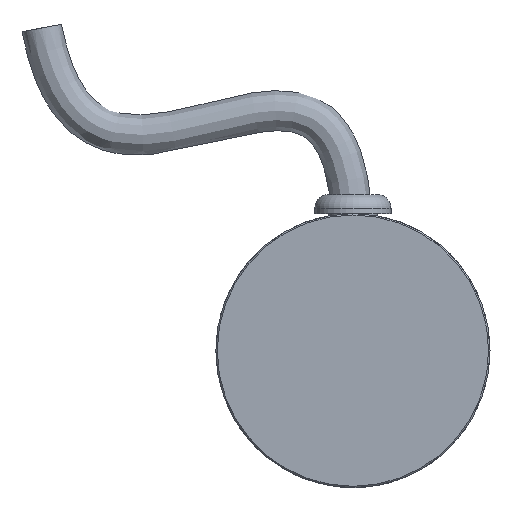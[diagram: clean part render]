
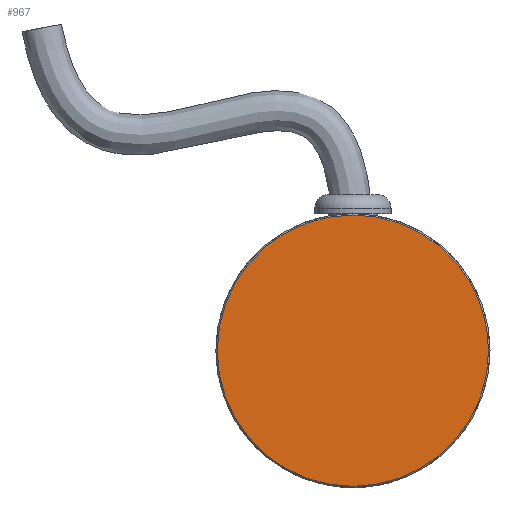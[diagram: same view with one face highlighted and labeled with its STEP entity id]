
A CAD part, front view. The second image highlights one B-rep face of the part: STEP entity #967.
In plain terms, the highlighted planar face has unit normal (0, -1, 0).
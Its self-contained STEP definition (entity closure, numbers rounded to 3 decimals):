
#28 = CARTESIAN_POINT ( 'NONE',  ( 0., -2., 19.6 ) ) ;
#29 = PLANE ( 'NONE',  #2275 ) ;
#394 = DIRECTION ( 'NONE',  ( 0., -1., 0. ) ) ;
#729 = CARTESIAN_POINT ( 'NONE',  ( 0., -2., 0. ) ) ;
#967 = ADVANCED_FACE ( 'NONE', ( #1823 ), #29, .T. ) ;
#1064 = DIRECTION ( 'NONE',  ( 0., 0., 1. ) ) ;
#1093 = VERTEX_POINT ( 'NONE', #28 ) ;
#1199 = AXIS2_PLACEMENT_3D ( 'NONE', #729, #394, #1064 ) ;
#1262 = EDGE_LOOP ( 'NONE', ( #1552 ) ) ;
#1294 = DIRECTION ( 'NONE',  ( 0., -1., 0. ) ) ;
#1453 = DIRECTION ( 'NONE',  ( 0., 0., 1. ) ) ;
#1552 = ORIENTED_EDGE ( 'NONE', *, *, #2002, .T. ) ;
#1823 = FACE_OUTER_BOUND ( 'NONE', #1262, .T. ) ;
#1936 = CIRCLE ( 'NONE', #1199, 19.6 ) ;
#2002 = EDGE_CURVE ( 'NONE', #1093, #1093, #1936, .T. ) ;
#2171 = CARTESIAN_POINT ( 'NONE',  ( -13., -2., 0. ) ) ;
#2275 = AXIS2_PLACEMENT_3D ( 'NONE', #2171, #1294, #1453 ) ;
